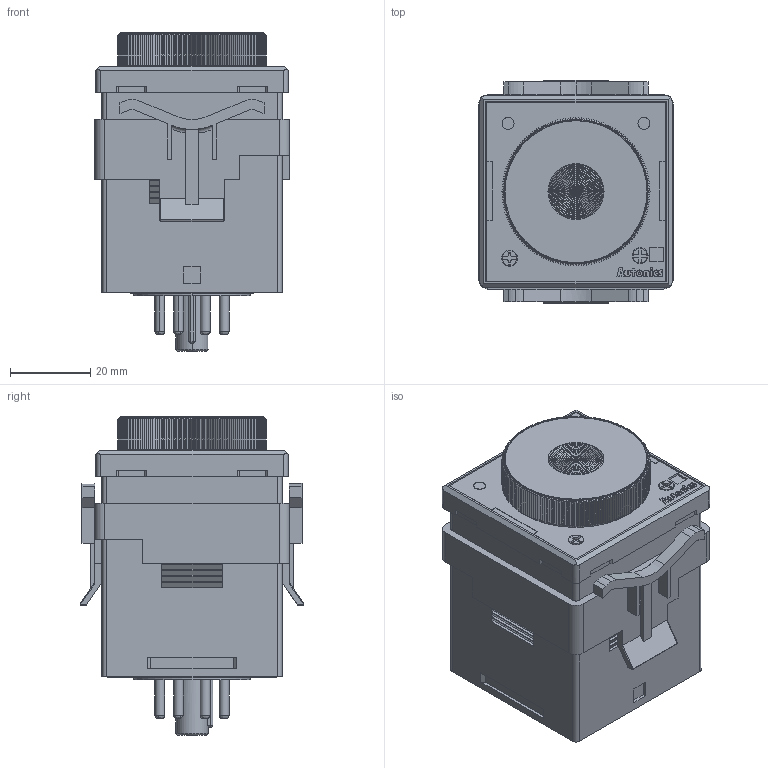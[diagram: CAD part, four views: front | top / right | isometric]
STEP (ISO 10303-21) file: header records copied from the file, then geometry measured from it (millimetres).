
FILE_DESCRIPTION (( 'STEP AP214' ), '1' );
FILE_NAME ('AT8N_AT8N-1_AT8N-2_AT8SDN.STEP', '2020-03-11T22:42:17', ( '' ), ( '' ), 'SwSTEP 2.0', 'SolidWorks 2018', '' );
FILE_SCHEMA (( 'AUTOMOTIVE_DESIGN' ));
Length unit declared in the file: millimetre
Products named in the file (1): AT8N_AT8N-1_AT8N-2_AT8SDN
Bounding box: 48.6 x 55.96 x 79.55 mm (x, y, z)
Volume: 127338.6 mm3; surface area: 31659.7 mm2
Topology: 3 solids, 11 shells, 2221 faces, 5306 edges, 3261 vertices
Faces by surface type: plane 1399, bspline 304, cone 303, cylinder 203, torus 10, sphere 2
Entity records: 77013 total; most frequent: CARTESIAN_POINT 19384, ORIENTED_EDGE 10604, DIRECTION 9816, EDGE_CURVE 5302, AXIS2_PLACEMENT_3D 3311, VERTEX_POINT 3261, LINE 3194, VECTOR 3194
